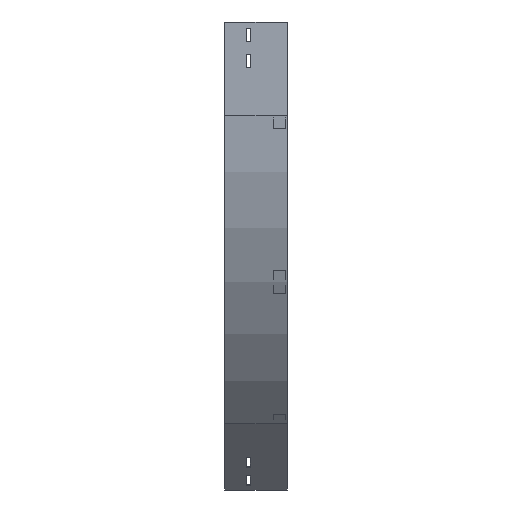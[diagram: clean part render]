
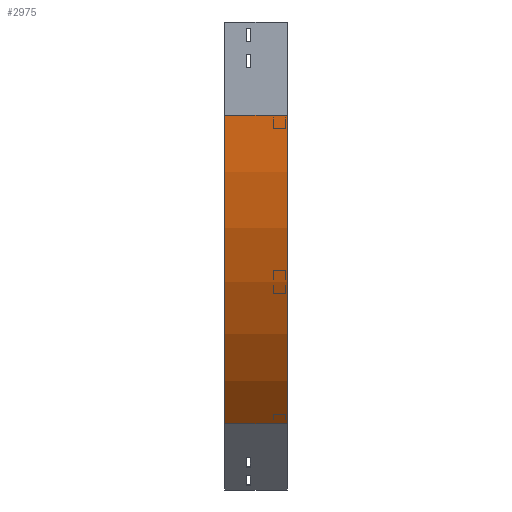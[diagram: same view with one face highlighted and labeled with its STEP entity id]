
A CAD part, left-side view. The second image highlights one B-rep face of the part: STEP entity #2975.
In plain terms, the highlighted cylindrical face has radius 700 mm (diameter 1400 mm), a partial arc.
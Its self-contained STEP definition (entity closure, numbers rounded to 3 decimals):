
#30 = CIRCLE ( 'NONE', #1669, 700. ) ;
#63 = DIRECTION ( 'NONE',  ( -1., 0., 0. ) ) ;
#117 = CARTESIAN_POINT ( 'NONE',  ( 700., 100., -150. ) ) ;
#171 = CARTESIAN_POINT ( 'NONE',  ( 205.025, 100., -644.975 ) ) ;
#237 = FACE_OUTER_BOUND ( 'NONE', #670, .T. ) ;
#430 = CARTESIAN_POINT ( 'NONE',  ( 0., 100., -150. ) ) ;
#537 = CARTESIAN_POINT ( 'NONE',  ( 0., 0., -150. ) ) ;
#670 = EDGE_LOOP ( 'NONE', ( #2390, #2896, #1129, #2492 ) ) ;
#736 = DIRECTION ( 'NONE',  ( -1., 0., 0. ) ) ;
#761 = VERTEX_POINT ( 'NONE', #430 ) ;
#908 = EDGE_CURVE ( 'NONE', #761, #2563, #1834, .T. ) ;
#1129 = ORIENTED_EDGE ( 'NONE', *, *, #1410, .T. ) ;
#1139 = DIRECTION ( 'NONE',  ( 0., 0., -1. ) ) ;
#1393 = CARTESIAN_POINT ( 'NONE',  ( 700., 0., -150. ) ) ;
#1410 = EDGE_CURVE ( 'NONE', #761, #1691, #30, .T. ) ;
#1433 = CYLINDRICAL_SURFACE ( 'NONE', #3143, 700. ) ;
#1539 = CARTESIAN_POINT ( 'NONE',  ( 0., 0., -150. ) ) ;
#1545 = CARTESIAN_POINT ( 'NONE',  ( 205.025, 0., -644.975 ) ) ;
#1669 = AXIS2_PLACEMENT_3D ( 'NONE', #117, #3397, #736 ) ;
#1691 = VERTEX_POINT ( 'NONE', #171 ) ;
#1807 = DIRECTION ( 'NONE',  ( 0., -1., 0. ) ) ;
#1834 = LINE ( 'NONE', #1539, #3517 ) ;
#1843 = LINE ( 'NONE', #1545, #3613 ) ;
#1868 = EDGE_CURVE ( 'NONE', #2563, #3260, #3581, .T. ) ;
#2130 = CARTESIAN_POINT ( 'NONE',  ( 700., 0., -150. ) ) ;
#2390 = ORIENTED_EDGE ( 'NONE', *, *, #1868, .F. ) ;
#2492 = ORIENTED_EDGE ( 'NONE', *, *, #2648, .T. ) ;
#2523 = DIRECTION ( 'NONE',  ( 0., -1., 0. ) ) ;
#2563 = VERTEX_POINT ( 'NONE', #537 ) ;
#2648 = EDGE_CURVE ( 'NONE', #1691, #3260, #1843, .T. ) ;
#2896 = ORIENTED_EDGE ( 'NONE', *, *, #908, .F. ) ;
#2975 = ADVANCED_FACE ( 'NONE', ( #237 ), #1433, .T. ) ;
#3127 = CARTESIAN_POINT ( 'NONE',  ( 205.025, 0., -644.975 ) ) ;
#3143 = AXIS2_PLACEMENT_3D ( 'NONE', #1393, #3793, #1139 ) ;
#3260 = VERTEX_POINT ( 'NONE', #3127 ) ;
#3397 = DIRECTION ( 'NONE',  ( 0., -1., 0. ) ) ;
#3517 = VECTOR ( 'NONE', #2523, 1000. ) ;
#3581 = CIRCLE ( 'NONE', #3771, 700. ) ;
#3613 = VECTOR ( 'NONE', #1807, 1000. ) ;
#3652 = DIRECTION ( 'NONE',  ( 0., -1., 0. ) ) ;
#3771 = AXIS2_PLACEMENT_3D ( 'NONE', #2130, #3652, #63 ) ;
#3793 = DIRECTION ( 'NONE',  ( 0., -1., 0. ) ) ;
